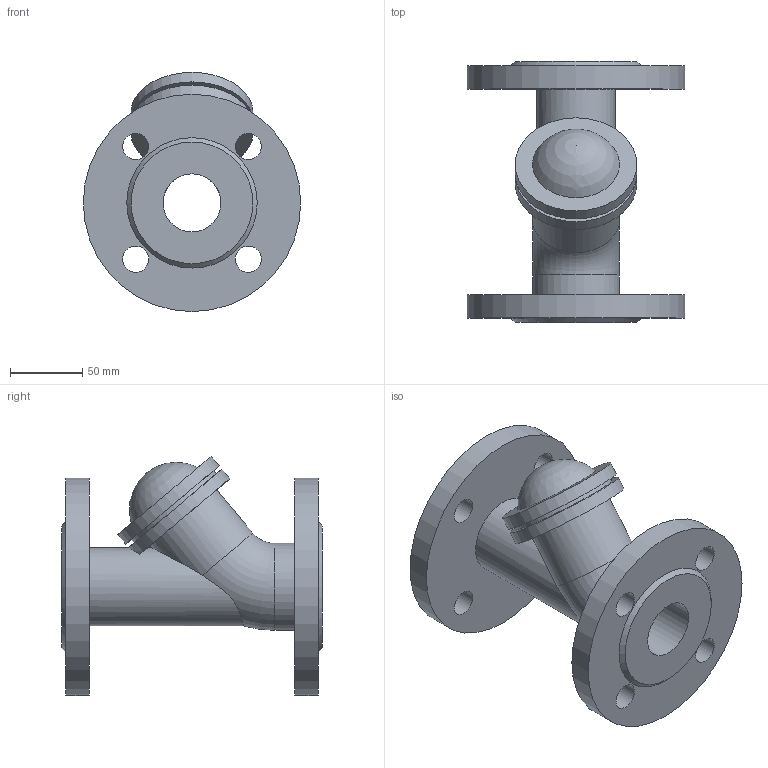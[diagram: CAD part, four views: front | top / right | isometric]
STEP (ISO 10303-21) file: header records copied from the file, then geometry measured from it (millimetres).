
FILE_DESCRIPTION(('STEP AP203'), '1');
FILE_NAME('Êëàïàí îáðàòíûé øàðîâîé ôëàíöåâûé 012F DN40', '', ('UNSPECIFIED'), ('UNSPECIFIED'), 'ASCON STEP Converter 1.6', 'ASCON Math Kernel', '');
FILE_SCHEMA(('CONFIG_CONTROL_DESIGN'));
Length unit declared in the file: millimetre
Bounding box: 150 x 180 x 165 mm (x, y, z)
Volume: 869554.3 mm3; surface area: 154302.2 mm2
Topology: 1 solids, 1 shells, 36 faces, 86 edges, 57 vertices
Faces by surface type: cylinder 19, plane 12, torus 2, cone 2, sphere 1
Full cylindrical faces by diameter (mm): 18 x8, 40 x2, 54 x1, 60 x2, 74 x1, 84 x2, 150 x2
Entity records: 1731 total; most frequent: CARTESIAN_POINT 616, DIRECTION 168, ORIENTED_EDGE 122, EDGE_LOOP 85, AXIS2_PLACEMENT_3D 84, EDGE_CURVE 61, VERTEX_POINT 56, FACE_BOUND 47
